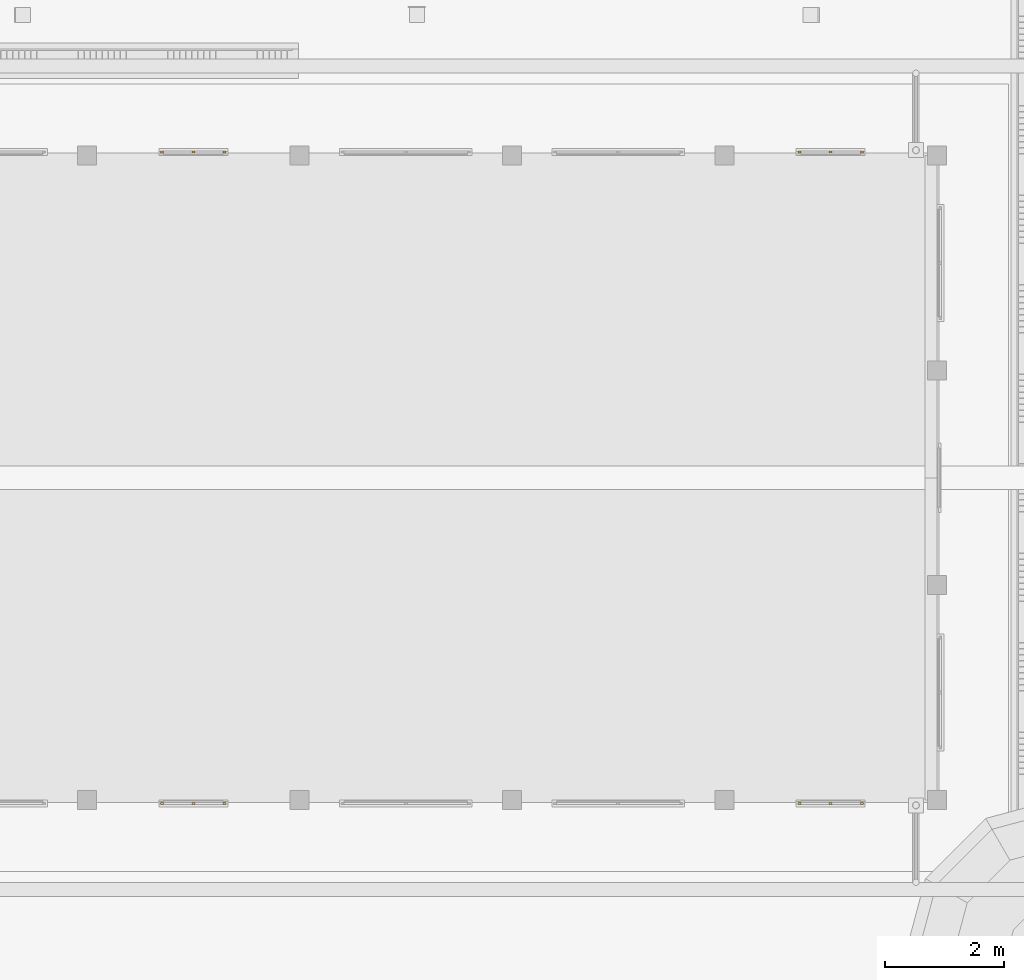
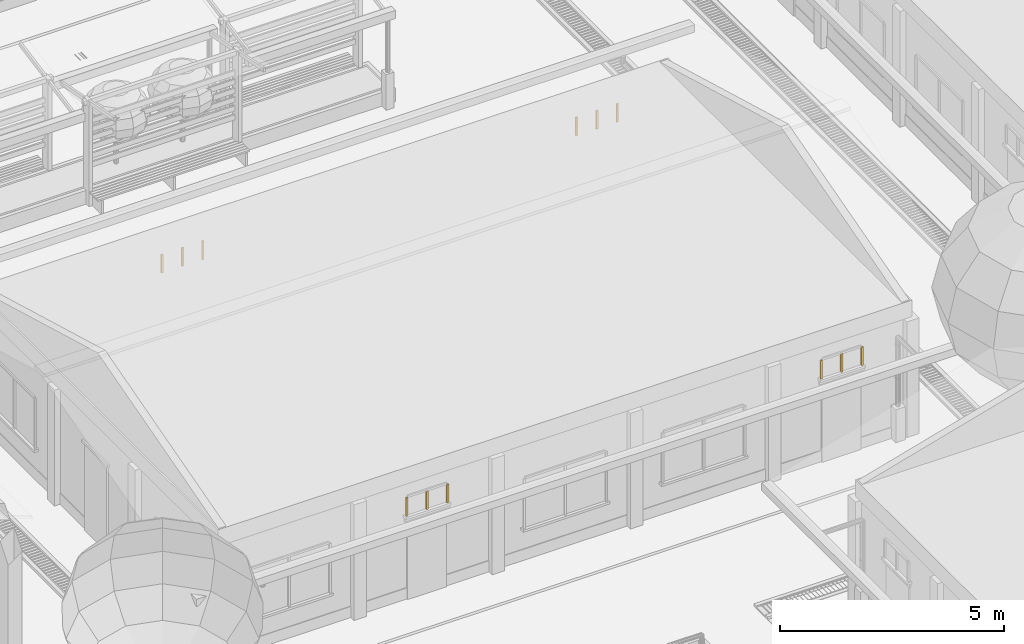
# One storey, part 80 of 166: 12 windows.
"""IFC2X3 building model written with IfcOpenShell, lengths in metres."""

from ifc_helpers import new_model, si_unit, origin, origin_with_axes, place, context, subcontext, project, spatial, faceted_brep, element, save


model = new_model("IFC2X3")

# Units and contexts
model_context = context("Model", 3, precision=1e-05, world=origin_with_axes())
body_context = subcontext(model_context, "Body", "Model", "MODEL_VIEW")
ifc_project = project(units=[si_unit("LENGTHUNIT", "METRE"), si_unit("AREAUNIT", "SQUARE_METRE"), si_unit("VOLUMEUNIT", "CUBIC_METRE"), si_unit("PLANEANGLEUNIT", "RADIAN")], contexts=[model_context])

# Site, building, storey
site_placement = place(None, origin_with_axes())
site = spatial("IfcSite", under=ifc_project, at=site_placement, Name="Predio Los Mangos - Morales, San Martín", CompositionType="ELEMENT")
building_placement = place(site_placement, origin())
building = spatial("IfcBuilding", under=site, at=building_placement, Name="Hogar de Refugio Temporal", CompositionType="ELEMENT")
storey_placement = place(building_placement, origin())
storey = spatial("IfcBuildingStorey", under=building, at=storey_placement, Name="NIVEL 1 (NPT +0.00)", CompositionType="ELEMENT", Elevation=0.0)

# Windows
window_1_placement = place(storey_placement, origin())
element("IfcWindow", 1, at=window_1_placement, inside=storey, Name="E-06_vt1_m", ObjectType="Ventana", context=body_context, shape_type="Brep", body=[
    faceted_brep([(36.79, 92.62, 2.45), (36.79, 92.66, 2.45), (36.84, 92.66, 2.45), (36.84, 92.62, 2.45), (36.79, 92.62, 2.95), (36.84, 92.62, 2.95), (36.84, 92.66, 2.95), (36.79, 92.66, 2.95)], [[[0, 1, 2, 3]], [[4, 5, 6, 7]], [[0, 3, 5, 4]], [[3, 2, 6, 5]], [[2, 1, 7, 6]], [[1, 0, 4, 7]]]),
])
window_2_placement = place(storey_placement, origin())
element("IfcWindow", 2, at=window_2_placement, inside=storey, Name="E-06_vt1_m", ObjectType="Ventana", context=body_context, shape_type="Brep", body=[
    faceted_brep([(37.84, 92.62, 2.45), (37.84, 92.66, 2.45), (37.89, 92.66, 2.45), (37.89, 92.62, 2.45), (37.84, 92.62, 2.95), (37.89, 92.62, 2.95), (37.89, 92.66, 2.95), (37.84, 92.66, 2.95)], [[[0, 1, 2, 3]], [[4, 5, 6, 7]], [[0, 3, 5, 4]], [[3, 2, 6, 5]], [[2, 1, 7, 6]], [[1, 0, 4, 7]]]),
])
window_3_placement = place(storey_placement, origin())
element("IfcWindow", 3, at=window_3_placement, inside=storey, Name="E-06_vt1_m", ObjectType="Ventana", context=body_context, shape_type="Brep", body=[
    faceted_brep([(37.315, 92.62, 2.45), (37.315, 92.66, 2.45), (37.365, 92.66, 2.45), (37.365, 92.62, 2.45), (37.315, 92.62, 2.95), (37.365, 92.62, 2.95), (37.365, 92.66, 2.95), (37.315, 92.66, 2.95)], [[[0, 1, 2, 3]], [[4, 5, 6, 7]], [[0, 3, 5, 4]], [[3, 2, 6, 5]], [[2, 1, 7, 6]], [[1, 0, 4, 7]]]),
])
window_4_placement = place(storey_placement, origin())
element("IfcWindow", 4, at=window_4_placement, inside=storey, Name="E-06_vt4_m", ObjectType="Ventana", context=body_context, shape_type="Brep", body=[
    faceted_brep([(47.47, 92.62, 2.45), (47.47, 92.66, 2.45), (47.52, 92.66, 2.45), (47.52, 92.62, 2.45), (47.47, 92.62, 2.95), (47.52, 92.62, 2.95), (47.52, 92.66, 2.95), (47.47, 92.66, 2.95)], [[[0, 1, 2, 3]], [[4, 5, 6, 7]], [[0, 3, 5, 4]], [[3, 2, 6, 5]], [[2, 1, 7, 6]], [[1, 0, 4, 7]]]),
])
window_5_placement = place(storey_placement, origin())
element("IfcWindow", 5, at=window_5_placement, inside=storey, Name="E-06_vt4_m", ObjectType="Ventana", context=body_context, shape_type="Brep", body=[
    faceted_brep([(48.52, 92.62, 2.45), (48.52, 92.66, 2.45), (48.57, 92.66, 2.45), (48.57, 92.62, 2.45), (48.52, 92.62, 2.95), (48.57, 92.62, 2.95), (48.57, 92.66, 2.95), (48.52, 92.66, 2.95)], [[[0, 1, 2, 3]], [[4, 5, 6, 7]], [[0, 3, 5, 4]], [[3, 2, 6, 5]], [[2, 1, 7, 6]], [[1, 0, 4, 7]]]),
])
window_6_placement = place(storey_placement, origin())
element("IfcWindow", 6, at=window_6_placement, inside=storey, Name="E-06_vt4_m", ObjectType="Ventana", context=body_context, shape_type="Brep", body=[
    faceted_brep([(47.995, 92.62, 2.45), (47.995, 92.66, 2.45), (48.045, 92.66, 2.45), (48.045, 92.62, 2.45), (47.995, 92.62, 2.95), (48.045, 92.62, 2.95), (48.045, 92.66, 2.95), (47.995, 92.66, 2.95)], [[[0, 1, 2, 3]], [[4, 5, 6, 7]], [[0, 3, 5, 4]], [[3, 2, 6, 5]], [[2, 1, 7, 6]], [[1, 0, 4, 7]]]),
])
window_7_placement = place(storey_placement, origin())
element("IfcWindow", 7, at=window_7_placement, inside=storey, Name="E-06_vt1_m", ObjectType="Ventana", context=body_context, shape_type="Brep", body=[
    faceted_brep([(36.79, 103.54, 2.45), (36.79, 103.58, 2.45), (36.84, 103.58, 2.45), (36.84, 103.54, 2.45), (36.79, 103.54, 2.95), (36.84, 103.54, 2.95), (36.84, 103.58, 2.95), (36.79, 103.58, 2.95)], [[[0, 1, 2, 3]], [[4, 5, 6, 7]], [[0, 3, 5, 4]], [[3, 2, 6, 5]], [[2, 1, 7, 6]], [[1, 0, 4, 7]]]),
])
window_8_placement = place(storey_placement, origin())
element("IfcWindow", 8, at=window_8_placement, inside=storey, Name="E-06_vt1_m", ObjectType="Ventana", context=body_context, shape_type="Brep", body=[
    faceted_brep([(37.84, 103.54, 2.45), (37.84, 103.58, 2.45), (37.89, 103.58, 2.45), (37.89, 103.54, 2.45), (37.84, 103.54, 2.95), (37.89, 103.54, 2.95), (37.89, 103.58, 2.95), (37.84, 103.58, 2.95)], [[[0, 1, 2, 3]], [[4, 5, 6, 7]], [[0, 3, 5, 4]], [[3, 2, 6, 5]], [[2, 1, 7, 6]], [[1, 0, 4, 7]]]),
])
window_9_placement = place(storey_placement, origin())
element("IfcWindow", 9, at=window_9_placement, inside=storey, Name="E-06_vt1_m", ObjectType="Ventana", context=body_context, shape_type="Brep", body=[
    faceted_brep([(37.315, 103.54, 2.45), (37.315, 103.58, 2.45), (37.365, 103.58, 2.45), (37.365, 103.54, 2.45), (37.315, 103.54, 2.95), (37.365, 103.54, 2.95), (37.365, 103.58, 2.95), (37.315, 103.58, 2.95)], [[[0, 1, 2, 3]], [[4, 5, 6, 7]], [[0, 3, 5, 4]], [[3, 2, 6, 5]], [[2, 1, 7, 6]], [[1, 0, 4, 7]]]),
])
window_10_placement = place(storey_placement, origin())
element("IfcWindow", 10, at=window_10_placement, inside=storey, Name="E-06_vt4_m", ObjectType="Ventana", context=body_context, shape_type="Brep", body=[
    faceted_brep([(47.47, 103.54, 2.45), (47.47, 103.58, 2.45), (47.52, 103.58, 2.45), (47.52, 103.54, 2.45), (47.47, 103.54, 2.95), (47.52, 103.54, 2.95), (47.52, 103.58, 2.95), (47.47, 103.58, 2.95)], [[[0, 1, 2, 3]], [[4, 5, 6, 7]], [[0, 3, 5, 4]], [[3, 2, 6, 5]], [[2, 1, 7, 6]], [[1, 0, 4, 7]]]),
])
window_11_placement = place(storey_placement, origin())
element("IfcWindow", 11, at=window_11_placement, inside=storey, Name="E-06_vt4_m", ObjectType="Ventana", context=body_context, shape_type="Brep", body=[
    faceted_brep([(48.52, 103.54, 2.45), (48.52, 103.58, 2.45), (48.57, 103.58, 2.45), (48.57, 103.54, 2.45), (48.52, 103.54, 2.95), (48.57, 103.54, 2.95), (48.57, 103.58, 2.95), (48.52, 103.58, 2.95)], [[[0, 1, 2, 3]], [[4, 5, 6, 7]], [[0, 3, 5, 4]], [[3, 2, 6, 5]], [[2, 1, 7, 6]], [[1, 0, 4, 7]]]),
])
window_12_placement = place(storey_placement, origin())
element("IfcWindow", 12, at=window_12_placement, inside=storey, Name="E-06_vt4_m", ObjectType="Ventana", context=body_context, shape_type="Brep", body=[
    faceted_brep([(47.995, 103.54, 2.45), (47.995, 103.58, 2.45), (48.045, 103.58, 2.45), (48.045, 103.54, 2.45), (47.995, 103.54, 2.95), (48.045, 103.54, 2.95), (48.045, 103.58, 2.95), (47.995, 103.58, 2.95)], [[[0, 1, 2, 3]], [[4, 5, 6, 7]], [[0, 3, 5, 4]], [[3, 2, 6, 5]], [[2, 1, 7, 6]], [[1, 0, 4, 7]]]),
])

save(model, "model.ifc")
